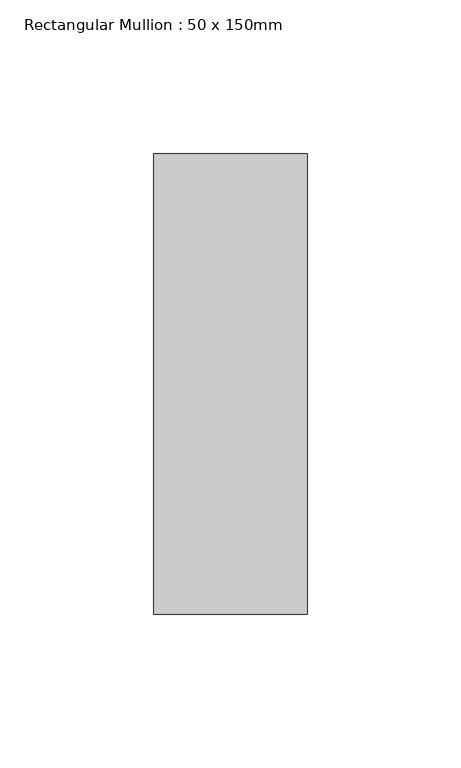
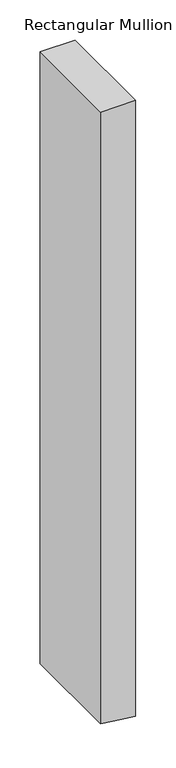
"""IFC4 building model written with IfcOpenShell, lengths in millimetres: member geometry, Rectangular Mullion : 50 x 150mm."""

from ifc_helpers import new_model, si_unit, frame, origin, place, context, project, spatial, polyline, outline, extrude, source, transform, mapped, element, save


def rectangular_mullion_50_x_150mm_8bc38251(model_context):
    return source(origin(), model_context, "Body", "SweptSolid", [
        extrude(outline(polyline([(0.0, 25.0), (0.0, -25.0), (-926.048524, -25.0), (-929.5286833, 5.6423937), (-931.7271914, 25.0), (0.0, 25.0)])), frame((0.0, -75.0, 0.0), z_axis=(0.0, 1.0, 0.0), x_axis=(0.0, 0.0, 1.0)), (0.0, 0.0, 1.0), 150.0),
    ])


if __name__ == "__main__":
    model = new_model("IFC4")
    model_context = context("Model", 3, world=origin())
    ifc_project = project(units=[si_unit("LENGTHUNIT", "METRE", prefix="MILLI")], contexts=[model_context])
    site = spatial("IfcSite", under=ifc_project)
    building = spatial("IfcBuilding", under=site)
    placement = place(None, origin())
    rectangular_mullion_50_x_150mm_shape = rectangular_mullion_50_x_150mm_8bc38251(model_context)
    element("IfcMember", 1, ObjectType="Rectangular Mullion : 50 x 150mm", at=placement, inside=building, context=model_context, shape_type="MappedRepresentation", body=[
        mapped(rectangular_mullion_50_x_150mm_shape, transform((0.0, 0.0, 0.0), x_axis=(1.0, 0.0, 0.0), y_axis=(0.0, 1.0, 0.0), z_axis=(0.0, 0.0, 1.0))),
    ])
    save(model, "model.ifc")
